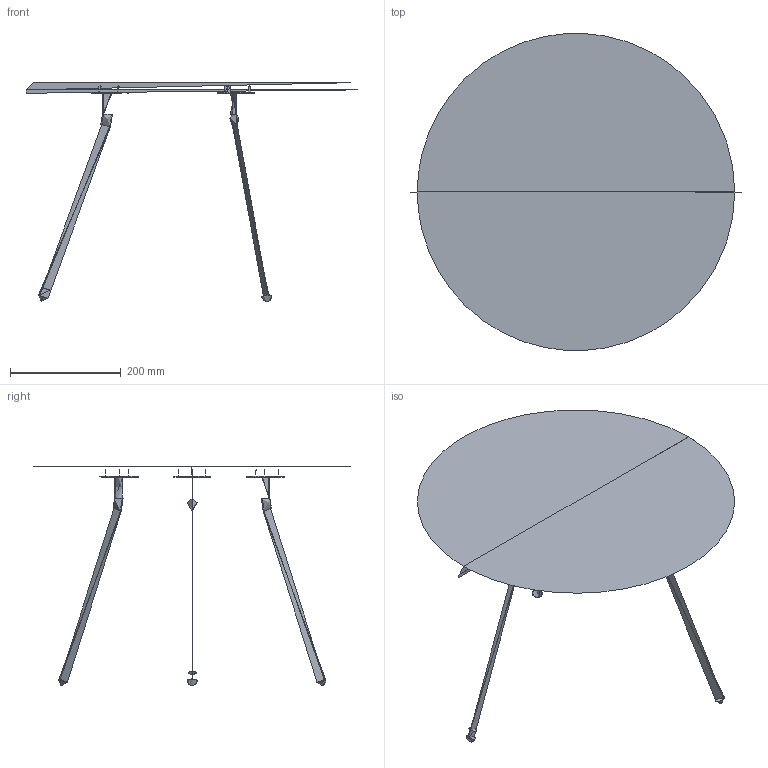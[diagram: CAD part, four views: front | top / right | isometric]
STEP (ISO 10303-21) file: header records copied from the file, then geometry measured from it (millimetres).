
FILE_DESCRIPTION(/* description */ (''),/* implementation_level */ '2;1');
FILE_NAME(/* name */ '110520_Soround',/* time_stamp */ '2019-09-18T15:44:09+02:00',/* author */ (''),/* organization */ (''),/* preprocessor_version */ 'ST-DEVELOPER v15',/* originating_system */ '',/* authorisation */ '');
FILE_SCHEMA (('AUTOMOTIVE_DESIGN'));
Length unit declared in the file: millimetre
Products named in the file (1): Document
Bounding box: 600 x 572.96 x 395.41 mm (x, y, z)
Surface area: 730534.3 mm2 (no closed solid volume)
Topology: 0 solids, 194 shells, 194 faces, 1938 edges, 2216 vertices
Faces by surface type: bspline 163, plane 31
Entity records: 23882 total; most frequent: CARTESIAN_POINT 10497, COLOUR_RGB 1620, PRESENTATION_STYLE_ASSIGNMENT 1620, STYLED_ITEM 1620, PRESENTATION_LAYER_ASSIGNMENT 1620, CURVE_STYLE 1426, DIRECTION 598, VECTOR 561
